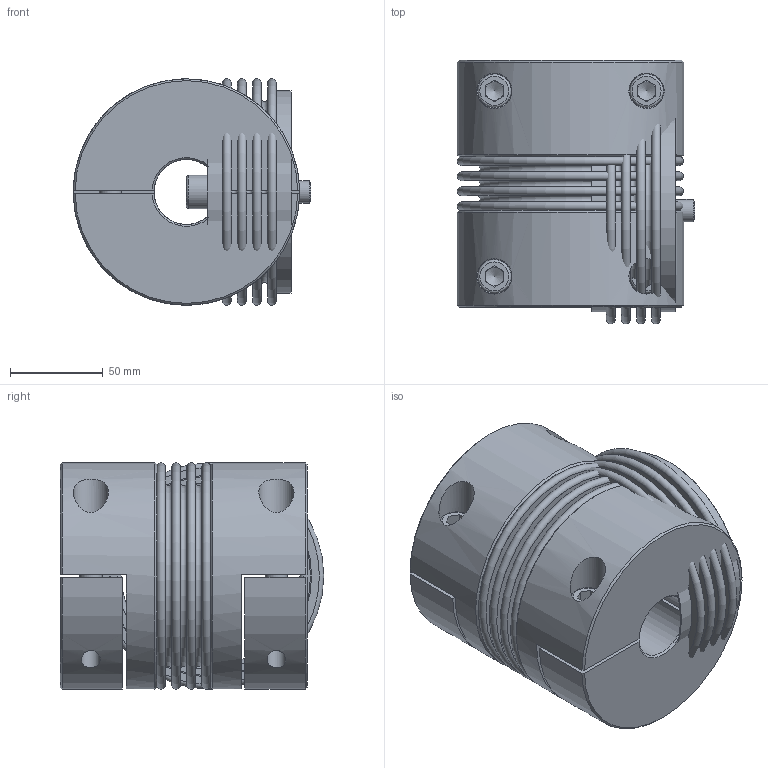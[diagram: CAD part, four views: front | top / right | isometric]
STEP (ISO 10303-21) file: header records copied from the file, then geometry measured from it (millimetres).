
FILE_DESCRIPTION( ( 'Unknown' ), '1' );
FILE_NAME( 'C:/Dokumente und Einstellungen/SKarpstein/Desktop/hp kbk/KB4H-500-133.stp', 'Unknown', ( 'Unknown' ), ( 'Unknown' ), 'XStep 1.0', 'Unknown', ' ' );
FILE_SCHEMA( ( 'automotive_design' ) );
Length unit declared in the file: millimetre
Products named in the file (5): Assem1; KN4H-500; BK500_Standard_0; Socket Head Cap Screw_DIN_DIN 912 M12 x 55 --- 55N_1
Bounding box: 128 x 141.94 x 122 mm (x, y, z)
Volume: 1638141.7 mm3; surface area: 388886.1 mm2
Topology: 13 solids, 13 shells, 264 faces, 540 edges, 342 vertices
Faces by surface type: plane 144, cylinder 48, torus 44, cone 28
Full cylindrical faces by diameter (mm): 10.106 x6, 12 x5, 12.5 x6, 18 x5, 19 x6, 35 x3, 107.7 x4, 108.9 x4, 122 x3
Entity records: 2642 total; most frequent: CARTESIAN_POINT 695, DIRECTION 382, ORIENTED_EDGE 254, AXIS2_PLACEMENT_3D 171, EDGE_LOOP 152, EDGE_CURVE 127, FACE_OUTER_BOUND 118, VERTEX_POINT 104
